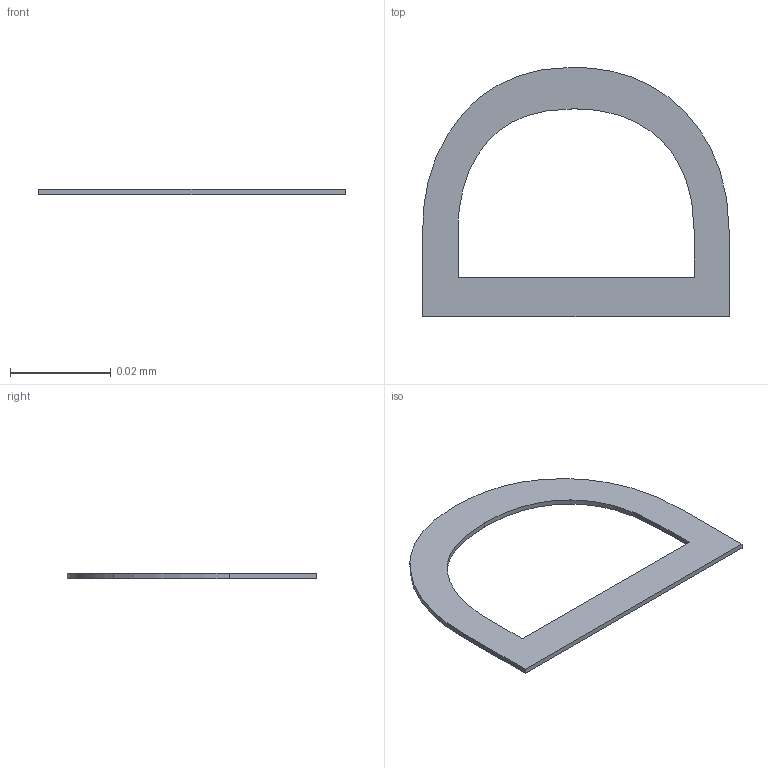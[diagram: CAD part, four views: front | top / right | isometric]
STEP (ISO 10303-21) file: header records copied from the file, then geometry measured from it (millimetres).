
FILE_DESCRIPTION(/* description */ ('STEP AP242 Edition 2','CAx-IF Rec.Pracs.---Representation and Presentation of Product Manufacturing Information (PMI)---4.0---2014-10-13','CAx-IF Rec.Pracs.---3D Tessellated Geometry---0.4---2014-09-14','2;1','CAx-IF Rec.Pracs.---User Defined Attributes---1.5---2016-08-15'),/* implementation_level */ '2;1');
FILE_NAME(/* name */ 'Assembly 1 - SOT-23-3_L2.9-W1.3-P0.95-LS2.4-BR~SOT-23-3P_L2.9-W1.3-H1.0-LS2.4-P0.95~nxQB (7)',/* time_stamp */ '2026-04-02T09:55:24Z',/* author */ (''),/* organization */ (''),/* preprocessor_version */ 'ST-DEVELOPER v20',/* originating_system */ 'ONSHAPE BY PTC INC, 1.212',/* authorisation */ ' ');
FILE_SCHEMA (('AP242_MANAGED_MODEL_BASED_3D_ENGINEERING_MIM_LF { 1 0 10303 442 3 1 4 }'));
Length unit declared in the file: metre
Products named in the file (1): SOT-23-3_L2.9-W1.3-P0.95-LS2.4-BR~SOT-23-3P_L2.9-W1.3-H1.0-LS2.4-P0.9
5~nxQB
Bounding box: 0.06 x 0.05 x 0 mm (x, y, z)
Volume: 0 mm3; surface area: 0 mm2
Topology: 1 solids, 1 shells, 16 faces, 42 edges, 28 vertices
Faces by surface type: bspline 8, plane 8
Entity records: 673 total; most frequent: CARTESIAN_POINT 191, ORIENTED_EDGE 84, DIRECTION 44, EDGE_CURVE 42, VERTEX_POINT 28, LINE 26, VECTOR 26, EDGE_LOOP 18
